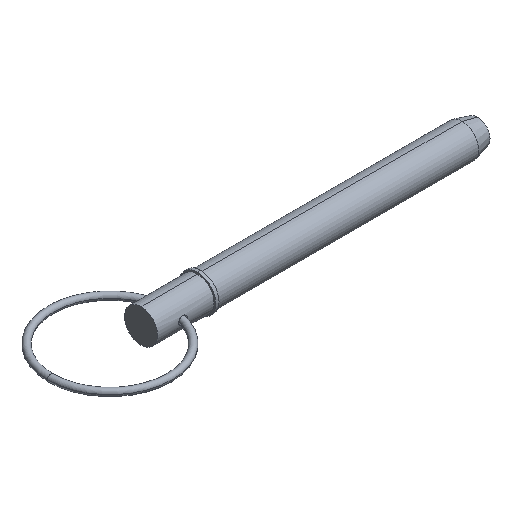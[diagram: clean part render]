
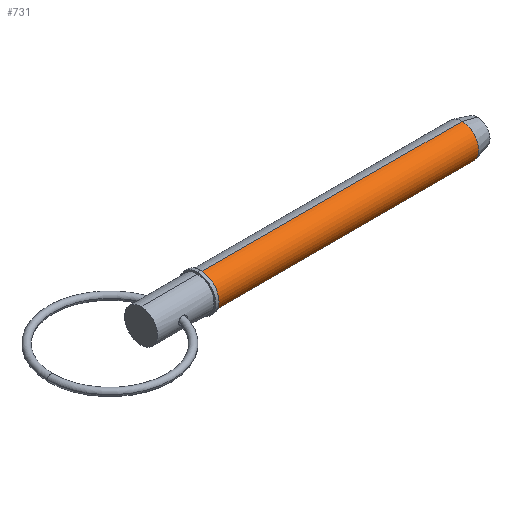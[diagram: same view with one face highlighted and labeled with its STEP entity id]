
A CAD part, isometric view. The second image highlights one B-rep face of the part: STEP entity #731.
In plain terms, the highlighted cylindrical face has radius 7.145 mm (diameter 14.29 mm), a partial arc.
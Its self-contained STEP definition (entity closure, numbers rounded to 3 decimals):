
#13 = VECTOR ( 'NONE', #41, 1000. ) ;
#41 = DIRECTION ( 'NONE',  ( 1., 0., 0. ) ) ;
#61 = DIRECTION ( 'NONE',  ( 0., 0., -1. ) ) ;
#69 = AXIS2_PLACEMENT_3D ( 'NONE', #947, #228, #890 ) ;
#123 = LINE ( 'NONE', #771, #13 ) ;
#150 = CARTESIAN_POINT ( 'NONE',  ( 25.7, 0., 0. ) ) ;
#161 = DIRECTION ( 'NONE',  ( 1., 0., 0. ) ) ;
#168 = ORIENTED_EDGE ( 'NONE', *, *, #740, .F. ) ;
#211 = AXIS2_PLACEMENT_3D ( 'NONE', #733, #161, #61 ) ;
#228 = DIRECTION ( 'NONE',  ( 1., 0., 0. ) ) ;
#235 = CARTESIAN_POINT ( 'NONE',  ( 138.084, 0., -7.145 ) ) ;
#239 = DIRECTION ( 'NONE',  ( 0., 0., -1. ) ) ;
#270 = EDGE_LOOP ( 'NONE', ( #168, #549, #900, #468 ) ) ;
#328 = LINE ( 'NONE', #402, #396 ) ;
#338 = AXIS2_PLACEMENT_3D ( 'NONE', #150, #632, #239 ) ;
#392 = CARTESIAN_POINT ( 'NONE',  ( 138.084, 0., 7.145 ) ) ;
#396 = VECTOR ( 'NONE', #651, 1000. ) ;
#402 = CARTESIAN_POINT ( 'NONE',  ( 0., 0., 7.145 ) ) ;
#411 = CYLINDRICAL_SURFACE ( 'NONE', #211, 7.145 ) ;
#413 = EDGE_CURVE ( 'NONE', #712, #1008, #123, .T. ) ;
#468 = ORIENTED_EDGE ( 'NONE', *, *, #685, .F. ) ;
#549 = ORIENTED_EDGE ( 'NONE', *, *, #710, .T. ) ;
#632 = DIRECTION ( 'NONE',  ( 1., 0., 0. ) ) ;
#637 = FACE_OUTER_BOUND ( 'NONE', #270, .T. ) ;
#651 = DIRECTION ( 'NONE',  ( 1., 0., 0. ) ) ;
#685 = EDGE_CURVE ( 'NONE', #943, #1008, #803, .T. ) ;
#710 = EDGE_CURVE ( 'NONE', #1001, #712, #717, .T. ) ;
#712 = VERTEX_POINT ( 'NONE', #800 ) ;
#717 = CIRCLE ( 'NONE', #338, 7.145 ) ;
#731 = ADVANCED_FACE ( 'NONE', ( #637 ), #411, .T. ) ;
#733 = CARTESIAN_POINT ( 'NONE',  ( 0., 0., 0. ) ) ;
#740 = EDGE_CURVE ( 'NONE', #1001, #943, #328, .T. ) ;
#771 = CARTESIAN_POINT ( 'NONE',  ( 0., 0., -7.145 ) ) ;
#800 = CARTESIAN_POINT ( 'NONE',  ( 25.7, 0., -7.145 ) ) ;
#803 = CIRCLE ( 'NONE', #69, 7.145 ) ;
#890 = DIRECTION ( 'NONE',  ( 0., 0., -1. ) ) ;
#900 = ORIENTED_EDGE ( 'NONE', *, *, #413, .T. ) ;
#943 = VERTEX_POINT ( 'NONE', #392 ) ;
#947 = CARTESIAN_POINT ( 'NONE',  ( 138.084, 0., 0. ) ) ;
#975 = CARTESIAN_POINT ( 'NONE',  ( 25.7, 0., 7.145 ) ) ;
#1001 = VERTEX_POINT ( 'NONE', #975 ) ;
#1008 = VERTEX_POINT ( 'NONE', #235 ) ;
